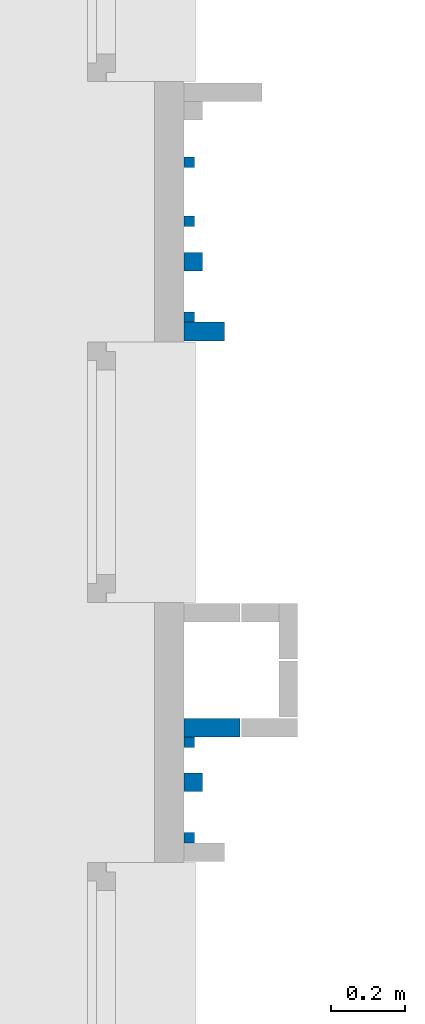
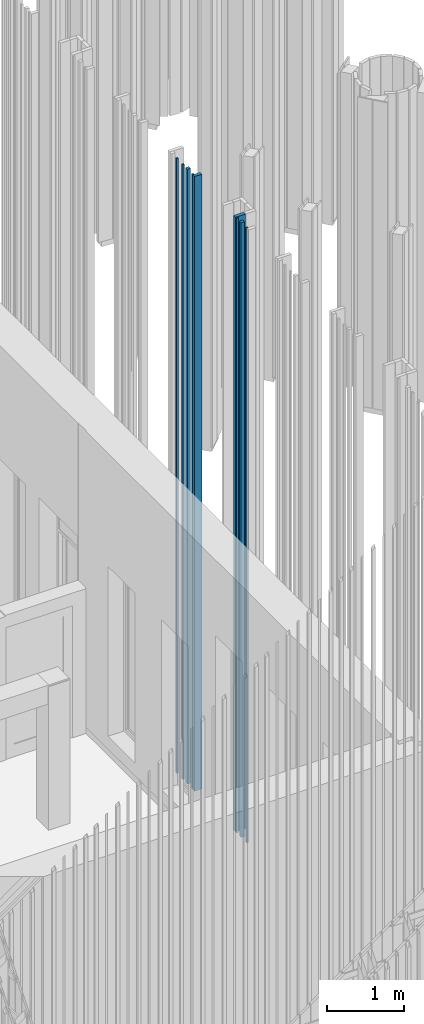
# One storey, part 181 of 390: 9 walls.
"""IFC2X3 building model written with IfcOpenShell, lengths in millimetres."""

from ifc_helpers import new_model, entity, si_unit, converted_unit, derived_unit, money_unit, direction, frame, origin_with_axes, place, context, subcontext, project, spatial, faceted_brep, material, type_object, element, save


model = new_model("IFC2X3")

# Units and contexts
model_context = context("Model", 3, precision=1e-05, world=origin_with_axes(), true_north=direction((0.0, 1.0)))
body_context = subcontext(model_context, "Body", "Model", "MODEL_VIEW")
ifc_project = project(units=[si_unit("LENGTHUNIT", "METRE", prefix="MILLI"), si_unit("AREAUNIT", "SQUARE_METRE"), si_unit("VOLUMEUNIT", "CUBIC_METRE"), converted_unit("PLANEANGLEUNIT", "DEGREE", entity("IfcPlaneAngleMeasure", 0.0174532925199), si_unit("PLANEANGLEUNIT", "RADIAN"), dimensions=[0, 0, 0, 0, 0, 0, 0]), si_unit("SOLIDANGLEUNIT", "STERADIAN"), money_unit("EUR"), converted_unit("TIMEUNIT", "Year", entity("IfcTimeMeasure", 31556926.0), si_unit("TIMEUNIT", "SECOND"), dimensions=[0, 0, 1, 0, 0, 0, 0]), si_unit("MASSUNIT", "GRAM", prefix="KILO"), si_unit("THERMODYNAMICTEMPERATUREUNIT", "DEGREE_CELSIUS"), si_unit("LUMINOUSINTENSITYUNIT", "LUMEN"), si_unit("ENERGYUNIT", "JOULE", prefix="MEGA"), derived_unit("THERMALCONDUCTANCEUNIT", [(si_unit("POWERUNIT", "WATT"), 1), (si_unit("LENGTHUNIT", "METRE"), -1), (si_unit("THERMODYNAMICTEMPERATUREUNIT", "KELVIN"), -1)]), derived_unit("SPECIFICHEATCAPACITYUNIT", [(si_unit("ENERGYUNIT", "JOULE"), 1), (si_unit("MASSUNIT", "GRAM", prefix="KILO"), -1), (si_unit("THERMODYNAMICTEMPERATUREUNIT", "KELVIN"), -1)]), derived_unit("MASSDENSITYUNIT", [(si_unit("MASSUNIT", "GRAM", prefix="KILO"), 1), (si_unit("VOLUMEUNIT", "CUBIC_METRE"), -1)])], contexts=[model_context])

# Site, building, storey
site_placement = place(None, origin_with_axes())
site = spatial("IfcSite", under=ifc_project, at=site_placement, Name="Site", CompositionType="ELEMENT")
building_placement = place(site_placement, origin_with_axes())
building = spatial("IfcBuilding", under=site, at=building_placement, Name="Building", CompositionType="ELEMENT")
storey_placement = place(building_placement, origin_with_axes())
storey = spatial("IfcBuildingStorey", under=building, at=storey_placement, Name="1 korrus", CompositionType="ELEMENT", Elevation=0.0)

# Walls
ifc_material = material(Name="Site specified")
wall_type_1 = type_object("IfcWallType", Name="Puitfassaadi ribistik", PredefinedType="NOTDEFINED")
wall_1_placement = place(storey_placement, frame((139800.999998, 52182.8244708, 100.000000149), z_axis=(0.0, 0.0, 1.0), x_axis=(0.0, -1.0, 0.0)))
element("IfcWall", 1, at=wall_1_placement, inside=storey, type_object=wall_type_1, material=ifc_material, Name="Site specified", context=body_context, shape_type="Brep", body=[
    faceted_brep([(-14.0, -14.0, 9764.99999985), (-14.0, -14.0, 0.0), (14.0, -14.0, 0.0), (14.0, -14.0, 9764.99999985), (-14.0, 14.0, 9764.99999985), (-14.0, 14.0, 0.0), (14.0, 14.0, 0.0), (14.0, 14.0, 9764.99999985)], [[[0, 1, 2, 3]], [[4, 5, 1, 0]], [[2, 1, 5, 6]], [[3, 2, 6, 7]], [[4, 0, 3, 7]], [[7, 6, 5, 4]]]),
])
wall_2_placement = place(storey_placement, frame((139841.499998, 51727.8244708, 100.000000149), z_axis=(0.0, 0.0, 1.0), x_axis=(0.0, -1.0, 0.0)))
element("IfcWall", 2, at=wall_2_placement, inside=storey, type_object=wall_type_1, material=ifc_material, Name="Site specified", context=body_context, shape_type="Brep", body=[
    faceted_brep([(-25.0, -54.5, 9764.99999985), (-25.0, -54.5, 0.0), (25.0, -54.5, 0.0), (25.0, -54.5, 9764.99999985), (-25.0, 54.5, 9764.99999985), (-25.0, 54.5, 0.0), (25.0, 54.5, 0.0), (25.0, 54.5, 9764.99999985)], [[[0, 1, 2, 3]], [[4, 5, 1, 0]], [[2, 1, 5, 6]], [[3, 2, 6, 7]], [[4, 0, 3, 7]], [[7, 6, 5, 4]]]),
])
wall_3_placement = place(storey_placement, frame((139800.999998, 52024.8244708, 100.000000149), z_axis=(0.0, 0.0, 1.0), x_axis=(0.0, -1.0, 0.0)))
element("IfcWall", 3, at=wall_3_placement, inside=storey, type_object=wall_type_1, material=ifc_material, Name="Site specified", context=body_context, shape_type="Brep", body=[
    faceted_brep([(-14.0, -14.0, 9764.99999985), (-14.0, -14.0, 0.0), (14.0, -14.0, 0.0), (14.0, -14.0, 9764.99999985), (-14.0, 14.0, 9764.99999985), (-14.0, 14.0, 0.0), (14.0, 14.0, 0.0), (14.0, 14.0, 9764.99999985)], [[[0, 1, 2, 3]], [[4, 5, 1, 0]], [[2, 1, 5, 6]], [[3, 2, 6, 7]], [[4, 0, 3, 7]], [[7, 6, 5, 4]]]),
])
wall_4_placement = place(storey_placement, frame((139811.999998, 51915.8244708, 100.000000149), z_axis=(0.0, 0.0, 1.0), x_axis=(0.0, -1.0, 0.0)))
element("IfcWall", 4, at=wall_4_placement, inside=storey, type_object=wall_type_1, material=ifc_material, Name="Site specified", context=body_context, shape_type="Brep", body=[
    faceted_brep([(-25.0, -25.0, 9764.99999985), (-25.0, -25.0, 0.0), (25.0, -25.0, 0.0), (25.0, -25.0, 9764.99999985), (-25.0, 25.0, 9764.99999985), (-25.0, 25.0, 0.0), (25.0, 25.0, 0.0), (25.0, 25.0, 9764.99999985)], [[[0, 1, 2, 3]], [[4, 5, 1, 0]], [[2, 1, 5, 6]], [[3, 2, 6, 7]], [[4, 0, 3, 7]], [[7, 6, 5, 4]]]),
])
for number, where, z_axis, x_axis, name in (
    (5, (139800.999998, 51766.8244708, 100.000000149), (0.0, 0.0, 1.0), (0.0, -1.0, 0.0), "Site specified"),
    (6, (139800.999999, 50366.8244708, 100.000000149), (0.0, 0.0, 1.0), (0.0, -1.0, 0.0), "Site specified"),
    (7, (139800.999999, 50622.8244383, 100.000000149), (0.0, 0.0, 1.0), (0.0, -1.0, 0.0), "Site specified"),
):
    element("IfcWall", number, at=place(storey_placement, frame(where, z_axis=z_axis, x_axis=x_axis)), inside=storey, type_object=wall_type_1, material=ifc_material, Name=name, context=body_context, shape_type="Brep", body=[
        faceted_brep([(-14.0, -14.0, 9764.99999985), (-14.0, -14.0, 0.0), (14.0, -14.0, 0.0), (14.0, -14.0, 9764.99999985), (-14.0, 14.0, 9764.99999985), (-14.0, 14.0, 0.0), (14.0, 14.0, 0.0), (14.0, 14.0, 9764.99999985)], [[[0, 1, 2, 3]], [[4, 5, 1, 0]], [[2, 1, 5, 6]], [[3, 2, 6, 7]], [[4, 0, 3, 7]], [[7, 6, 5, 4]]]),
    ])
wall_5_placement = place(storey_placement, frame((139811.999999, 50515.8244708, 100.000000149), z_axis=(0.0, 0.0, 1.0), x_axis=(0.0, -1.0, 0.0)))
element("IfcWall", 8, at=wall_5_placement, inside=storey, type_object=wall_type_1, material=ifc_material, Name="Site specified", context=body_context, shape_type="Brep", body=[
    faceted_brep([(-25.0, -25.0, 9764.99999985), (-25.0, -25.0, 0.0), (25.0, -25.0, 0.0), (25.0, -25.0, 9764.99999985), (-25.0, 25.0, 9764.99999985), (-25.0, 25.0, 0.0), (25.0, 25.0, 0.0), (25.0, 25.0, 9764.99999985)], [[[0, 1, 2, 3]], [[4, 5, 1, 0]], [[2, 1, 5, 6]], [[3, 2, 6, 7]], [[4, 0, 3, 7]], [[7, 6, 5, 4]]]),
])
wall_type_2 = type_object("IfcWallType", Name="Puitfassaadi ribisik", PredefinedType="NOTDEFINED")
wall_6_placement = place(storey_placement, frame((139862.000003, 50661.8244239, 100.000000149), z_axis=(0.0, 0.0, 1.0), x_axis=(-1.92421249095e-07, -1.0, 0.0)))
element("IfcWall", 9, at=wall_6_placement, inside=storey, type_object=wall_type_2, material=ifc_material, Name="Site specified", context=body_context, shape_type="Brep", body=[
    faceted_brep([(-25.0, -75.0, 9764.99999475), (-25.0, -75.0, 0.0), (25.0, -75.0, 0.0), (25.0, -75.0, 9764.99999475), (-25.0, 75.0, 9764.99999475), (-25.0, 75.0, 0.0), (25.0, 75.0, 0.0), (25.0, 75.0, 9764.99999475)], [[[0, 1, 2, 3]], [[4, 5, 1, 0]], [[2, 1, 5, 6]], [[3, 2, 6, 7]], [[4, 0, 3, 7]], [[7, 6, 5, 4]]]),
])

save(model, "model.ifc")
